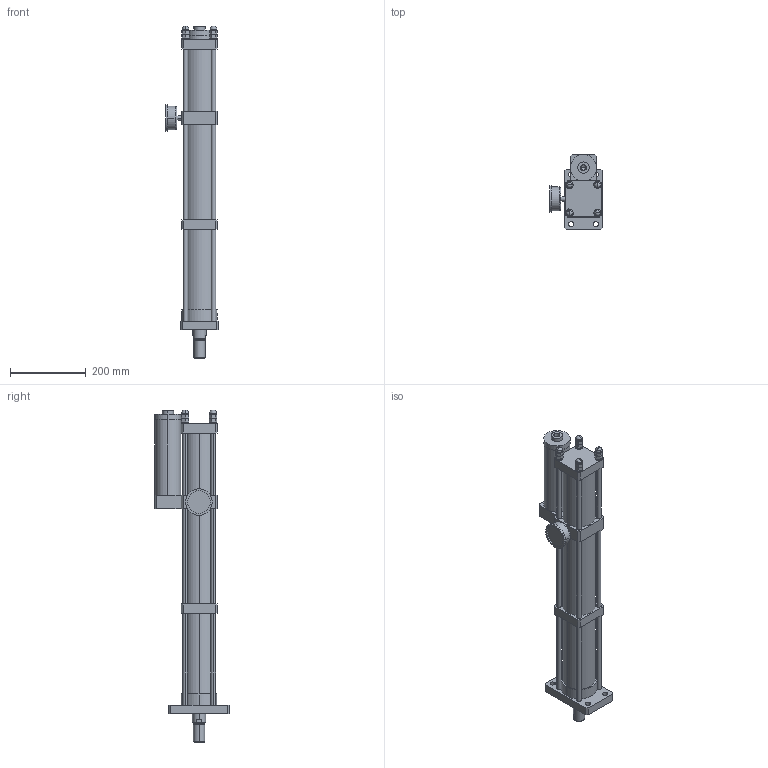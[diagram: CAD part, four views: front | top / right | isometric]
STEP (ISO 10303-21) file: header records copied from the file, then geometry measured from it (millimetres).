
FILE_DESCRIPTION (( 'STEP AP203' ), '1' );
FILE_NAME ('JRM-80-150-20L-1T.STEP', '2024-03-29T07:35:51', ( 'China' ), ( 'Home' ), 'SwSTEP 2.0', 'SolidWorks 2020', '' );
FILE_SCHEMA (( 'CONFIG_CONTROL_DESIGN' ));
Length unit declared in the file: millimetre
Products named in the file (5): JRM-80-150-20L-1T; M12; JRM-63-150-20L-1T ; JRM-63-150-20L-1T  ; yalibiao
Assembly tree (7 placements, depth 2):
  JRM-80-150-20L-1T
    JRM-63-150-20L-1T 
    JRM-63-150-20L-1T  
    M12  x4
    yalibiao
Bounding box: 139.5 x 197.5 x 877.9 mm (x, y, z)
Volume: 5878995.8 mm3; surface area: 593823.4 mm2
Topology: 15 solids, 15 shells, 443 faces, 1046 edges, 643 vertices
Faces by surface type: plane 156, cylinder 145, cone 132, sphere 8, bspline 2
Entity records: 8446 total; most frequent: CARTESIAN_POINT 1700, DIRECTION 1359, ORIENTED_EDGE 1210, EDGE_CURVE 605, AXIS2_PLACEMENT_3D 538, VERTEX_POINT 392, EDGE_LOOP 323, VECTOR 283
